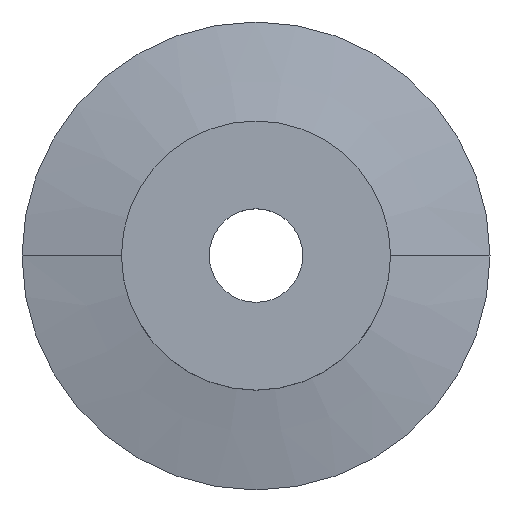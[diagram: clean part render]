
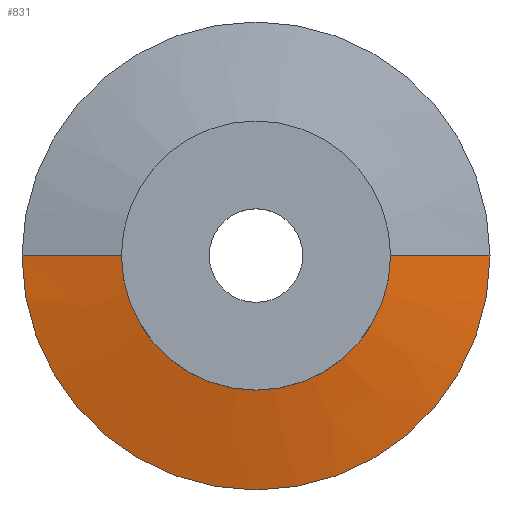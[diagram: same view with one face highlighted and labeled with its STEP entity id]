
A CAD part, top view. The second image highlights one B-rep face of the part: STEP entity #831.
In plain terms, the highlighted conical face has half-angle 77.795 degrees and reference radius 20 mm.
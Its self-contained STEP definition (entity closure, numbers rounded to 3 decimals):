
#11 = CARTESIAN_POINT ( 'NONE',  ( 5.177, 0., -18.794 ) ) ;
#40 = DIRECTION ( 'NONE',  ( -1., 0., 0. ) ) ;
#60 = CARTESIAN_POINT ( 'NONE',  ( -5.177, 0., -18.794 ) ) ;
#100 = CARTESIAN_POINT ( 'NONE',  ( 0., 0., -22. ) ) ;
#101 = VECTOR ( 'NONE', #912, 1000. ) ;
#109 = AXIS2_PLACEMENT_3D ( 'NONE', #744, #446, #384 ) ;
#119 = EDGE_LOOP ( 'NONE', ( #457, #581, #299, #254 ) ) ;
#126 = LINE ( 'NONE', #649, #314 ) ;
#185 = CARTESIAN_POINT ( 'NONE',  ( 20., 0., -22. ) ) ;
#200 = AXIS2_PLACEMENT_3D ( 'NONE', #100, #864, #40 ) ;
#207 = CIRCLE ( 'NONE', #109, 20. ) ;
#254 = ORIENTED_EDGE ( 'NONE', *, *, #762, .T. ) ;
#291 = CONICAL_SURFACE ( 'NONE', #200, 20., 1.358 ) ;
#299 = ORIENTED_EDGE ( 'NONE', *, *, #537, .T. ) ;
#314 = VECTOR ( 'NONE', #850, 1000. ) ;
#328 = EDGE_CURVE ( 'NONE', #399, #612, #126, .T. ) ;
#336 = VERTEX_POINT ( 'NONE', #60 ) ;
#342 = CARTESIAN_POINT ( 'NONE',  ( -20., 0., -22. ) ) ;
#354 = LINE ( 'NONE', #342, #101 ) ;
#384 = DIRECTION ( 'NONE',  ( 1., 0., 0. ) ) ;
#399 = VERTEX_POINT ( 'NONE', #11 ) ;
#400 = VERTEX_POINT ( 'NONE', #669 ) ;
#446 = DIRECTION ( 'NONE',  ( 0., 0., 1. ) ) ;
#457 = ORIENTED_EDGE ( 'NONE', *, *, #328, .F. ) ;
#537 = EDGE_CURVE ( 'NONE', #336, #400, #354, .T. ) ;
#540 = FACE_OUTER_BOUND ( 'NONE', #119, .T. ) ;
#581 = ORIENTED_EDGE ( 'NONE', *, *, #914, .F. ) ;
#612 = VERTEX_POINT ( 'NONE', #185 ) ;
#614 = AXIS2_PLACEMENT_3D ( 'NONE', #665, #642, #639 ) ;
#639 = DIRECTION ( 'NONE',  ( 1., 0., 0. ) ) ;
#642 = DIRECTION ( 'NONE',  ( 0., 0., 1. ) ) ;
#649 = CARTESIAN_POINT ( 'NONE',  ( 20., 0., -22. ) ) ;
#665 = CARTESIAN_POINT ( 'NONE',  ( 0., 0., -18.794 ) ) ;
#669 = CARTESIAN_POINT ( 'NONE',  ( -20., 0., -22. ) ) ;
#744 = CARTESIAN_POINT ( 'NONE',  ( 0., 0., -22. ) ) ;
#762 = EDGE_CURVE ( 'NONE', #400, #612, #207, .T. ) ;
#802 = CIRCLE ( 'NONE', #614, 5.177 ) ;
#831 = ADVANCED_FACE ( 'NONE', ( #540 ), #291, .T. ) ;
#850 = DIRECTION ( 'NONE',  ( 0.977, 0., -0.211 ) ) ;
#864 = DIRECTION ( 'NONE',  ( 0., 0., -1. ) ) ;
#912 = DIRECTION ( 'NONE',  ( -0.977, 0., -0.211 ) ) ;
#914 = EDGE_CURVE ( 'NONE', #336, #399, #802, .T. ) ;
